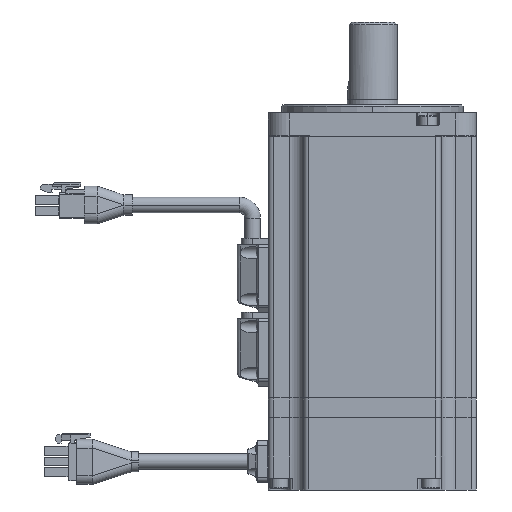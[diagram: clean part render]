
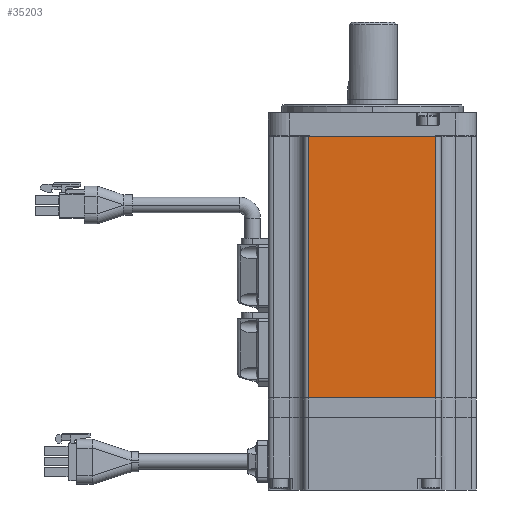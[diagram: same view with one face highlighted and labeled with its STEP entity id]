
A CAD part, left-side view. The second image highlights one B-rep face of the part: STEP entity #35203.
In plain terms, the highlighted planar face has unit normal (-1, 0, 0).
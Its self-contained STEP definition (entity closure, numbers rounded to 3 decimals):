
#948 = ORIENTED_EDGE ( 'NONE', *, *, #42055, .F. ) ;
#949 = ORIENTED_EDGE ( 'NONE', *, *, #42106, .T. ) ;
#950 = ORIENTED_EDGE ( 'NONE', *, *, #42082, .T. ) ;
#951 = ORIENTED_EDGE ( 'NONE', *, *, #42107, .T. ) ;
#14476 = CARTESIAN_POINT ( 'NONE',  ( -40.1, 40.1, 101. ) ) ;
#14482 = PLANE ( 'NONE',  #31234 ) ;
#14484 = DIRECTION ( 'NONE',  ( 1., 0., 0. ) ) ;
#14485 = DIRECTION ( 'NONE',  ( 0., 1., 0. ) ) ;
#22770 = LINE ( 'NONE', #25397, #22774 ) ;
#22774 = VECTOR ( 'NONE', #25394, 1000. ) ;
#22810 = LINE ( 'NONE', #25469, #22812 ) ;
#22812 = VECTOR ( 'NONE', #25470, 1000. ) ;
#22846 = LINE ( 'NONE', #25529, #22848 ) ;
#22847 = LINE ( 'NONE', #25537, #22850 ) ;
#22848 = VECTOR ( 'NONE', #25530, 1000. ) ;
#22850 = VECTOR ( 'NONE', #25538, 1000. ) ;
#23784 = CARTESIAN_POINT ( 'NONE',  ( -40.1, 24.5, 101. ) ) ;
#23786 = CARTESIAN_POINT ( 'NONE',  ( -40.1, -24.5, 101. ) ) ;
#23802 = CARTESIAN_POINT ( 'NONE',  ( -40.1, 24.5, 0. ) ) ;
#23820 = CARTESIAN_POINT ( 'NONE',  ( -40.1, -24.5, 0. ) ) ;
#25394 = DIRECTION ( 'NONE',  ( 0., -1., 0. ) ) ;
#25397 = CARTESIAN_POINT ( 'NONE',  ( -40.1, 40.1, 101. ) ) ;
#25469 = CARTESIAN_POINT ( 'NONE',  ( -40.1, 40.1, 0. ) ) ;
#25470 = DIRECTION ( 'NONE',  ( 0., -1., 0. ) ) ;
#25529 = CARTESIAN_POINT ( 'NONE',  ( -40.1, 24.5, 101. ) ) ;
#25530 = DIRECTION ( 'NONE',  ( 0., 0., -1. ) ) ;
#25537 = CARTESIAN_POINT ( 'NONE',  ( -40.1, -24.5, 101. ) ) ;
#25538 = DIRECTION ( 'NONE',  ( 0., 0., 1. ) ) ;
#31234 = AXIS2_PLACEMENT_3D ( 'NONE', #14476, #14484, #14485 ) ;
#33076 = FACE_OUTER_BOUND ( 'NONE', #39401, .T. ) ;
#35203 = ADVANCED_FACE ( 'NONE', ( #33076 ), #14482, .F. ) ;
#39337 = VERTEX_POINT ( 'NONE', #23784 ) ;
#39338 = VERTEX_POINT ( 'NONE', #23786 ) ;
#39347 = VERTEX_POINT ( 'NONE', #23802 ) ;
#39358 = VERTEX_POINT ( 'NONE', #23820 ) ;
#39401 = EDGE_LOOP ( 'NONE', ( #948, #949, #950, #951 ) ) ;
#42055 = EDGE_CURVE ( 'NONE', #39337, #39338, #22770, .T. ) ;
#42082 = EDGE_CURVE ( 'NONE', #39347, #39358, #22810, .T. ) ;
#42106 = EDGE_CURVE ( 'NONE', #39337, #39347, #22846, .T. ) ;
#42107 = EDGE_CURVE ( 'NONE', #39358, #39338, #22847, .T. ) ;
